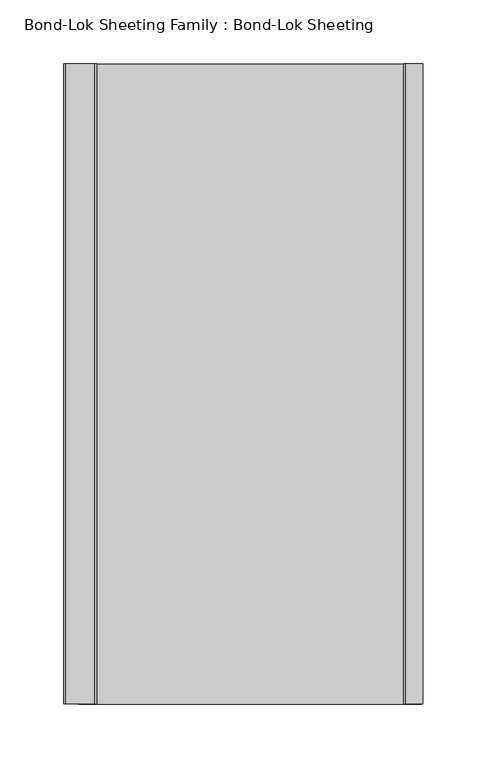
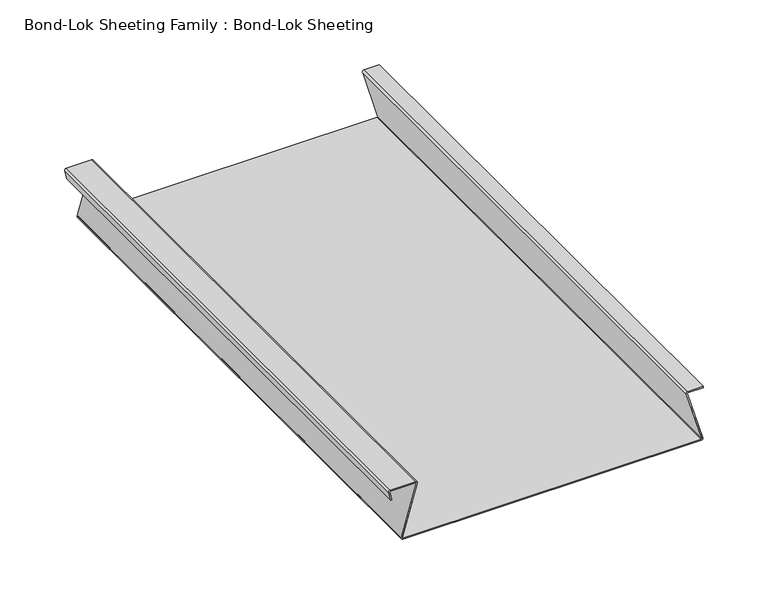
"""IFC4 building model written with IfcOpenShell, lengths in millimetres: proxy geometry, Bond-Lok Sheeting Family : Bond-Lok Sheeting."""

from ifc_helpers import new_model, si_unit, point, frame, frame_2d, origin, place, context, project, spatial, polyline, circle_curve, trimmed, segment, composite_curve, outline, extrude, source, transform, mapped, element, save


def bond_lok_sheeting_family_bond_lok_sheeting_fb750020(model_context):
    return source(origin(), model_context, "Body", "SweptSolid", [
        extrude(outline(composite_curve([segment(trimmed(circle_curve(frame_2d((3.75, 138.010263)), 1.5), [point((2.25, 138.010263))], [point((4.1634562, 139.4521555))], False, "CARTESIAN"), True, "CONTINUOUS"), segment(polyline([(4.1634562, 139.4521555), (50.6121814, 125.8464525)]), True, "CONTINUOUS"), segment(trimmed(circle_curve(frame_2d((50.75, 126.3270833)), 0.5), [point((50.6121814, 125.8464525))], [point((51.25, 126.3270833))], True, "CARTESIAN"), True, "CONTINUOUS"), segment(polyline([(51.25, 126.3270833), (51.25, 139.9436477), (52.25, 139.9436477), (52.25, 126.3270833)]), True, "CONTINUOUS"), segment(trimmed(circle_curve(frame_2d((50.75, 126.3270833)), 1.5), [point((52.25, 126.3270833))], [point((50.3330747, 124.8861901))], False, "CARTESIAN"), True, "CONTINUOUS"), segment(polyline([(50.3330747, 124.8861901), (3.8858138, 138.4914642)]), True, "CONTINUOUS"), segment(trimmed(circle_curve(frame_2d((3.75, 138.010263)), 0.5), [point((3.8858138, 138.4914642))], [point((3.25, 138.010263))], True, "CARTESIAN"), True, "CONTINUOUS"), segment(polyline([(3.25, 138.010263), (3.25, -128.0086026)]), True, "CONTINUOUS"), segment(trimmed(circle_curve(frame_2d((3.75, -128.0086026)), 0.5), [point((3.25, -128.0086026))], [point((3.8858139, -128.4898038))], True, "CARTESIAN"), True, "CONTINUOUS"), segment(polyline([(3.8858139, -128.4898038), (50.3330748, -114.8845297)]), True, "CONTINUOUS"), segment(trimmed(circle_curve(frame_2d((50.75, -116.3254229)), 1.5), [point((50.3330748, -114.8845297))], [point((52.25, -116.3254229))], False, "CARTESIAN"), True, "CONTINUOUS"), segment(polyline([(52.25, -116.3254229), (52.25, -139.0225201)]), True, "CONTINUOUS"), segment(trimmed(circle_curve(frame_2d((50.75, -139.0225201)), 1.5), [point((52.25, -139.0225201))], [point((50.3927067, -140.4793459))], False, "CARTESIAN"), True, "CONTINUOUS"), segment(polyline([(50.3927067, -140.4793459), (42.5378277, -138.5529006), (42.7760232, -137.5816834), (50.6309022, -139.5081287)]), True, "CONTINUOUS"), segment(trimmed(circle_curve(frame_2d((50.75, -139.0225201)), 0.5), [point((50.6309022, -139.5081287))], [point((51.25, -139.0225201))], True, "CARTESIAN"), True, "CONTINUOUS"), segment(polyline([(51.25, -139.0225201), (51.25, -116.3254229)]), True, "CONTINUOUS"), segment(trimmed(circle_curve(frame_2d((50.75, -116.3254229)), 0.5), [point((51.25, -116.3254229))], [point((50.6121815, -115.844792))], True, "CARTESIAN"), True, "CONTINUOUS"), segment(polyline([(50.6121815, -115.844792), (4.1634563, -129.450495)]), True, "CONTINUOUS"), segment(trimmed(circle_curve(frame_2d((3.75, -128.0086026)), 1.5), [point((4.1634563, -129.450495))], [point((2.25, -128.0086026))], False, "CARTESIAN"), True, "CONTINUOUS"), segment(polyline([(2.25, -128.0086026), (2.25, 138.010263)]), True, "CONTINUOUS")], self_intersect=False)), frame((0.0, -500.0, 0.0), z_axis=(0.0, 1.0, 0.0), x_axis=(0.0, 0.0, 1.0)), (0.0, 0.0, 1.0), 500.0),
    ])


if __name__ == "__main__":
    model = new_model("IFC4")
    model_context = context("Model", 3, world=origin())
    ifc_project = project(units=[si_unit("LENGTHUNIT", "METRE", prefix="MILLI")], contexts=[model_context])
    site = spatial("IfcSite", under=ifc_project)
    building = spatial("IfcBuilding", under=site)
    placement = place(None, origin())
    bond_lok_sheeting_family_bond_lok_sheeting_shape = bond_lok_sheeting_family_bond_lok_sheeting_fb750020(model_context)
    element("IfcBuildingElementProxy", 1, Name="Bond-Lok Sheeting Family : Bond-Lok Sheeting", ObjectType="Bond-Lok Sheeting Family : Bond-Lok Sheeting", at=placement, inside=building, context=model_context, shape_type="MappedRepresentation", body=[
        mapped(bond_lok_sheeting_family_bond_lok_sheeting_shape, transform((0.0, 0.0, 0.0), x_axis=(1.0, 0.0, 0.0), y_axis=(0.0, 1.0, 0.0), z_axis=(0.0, 0.0, 1.0))),
    ])
    save(model, "model.ifc")
